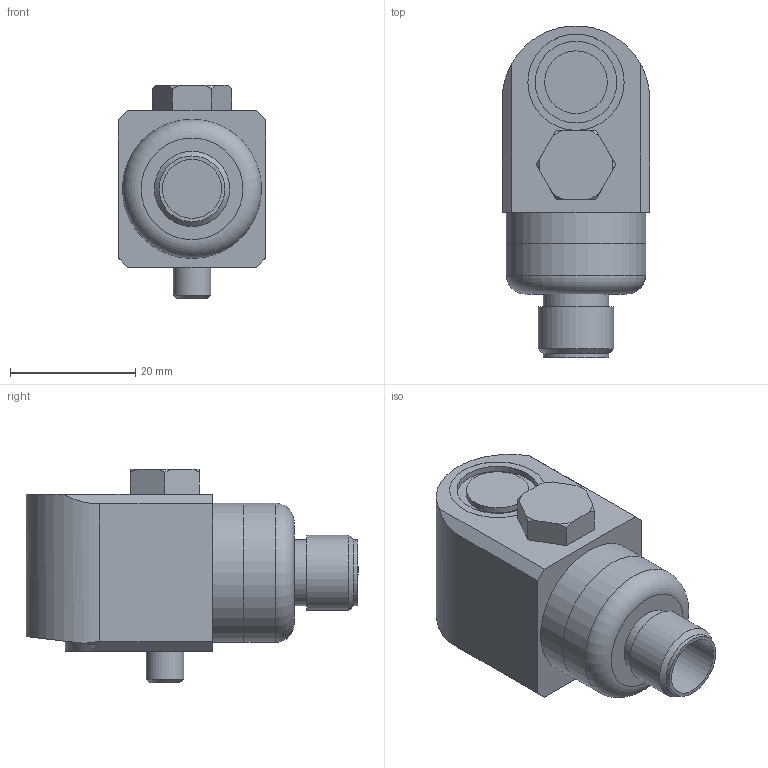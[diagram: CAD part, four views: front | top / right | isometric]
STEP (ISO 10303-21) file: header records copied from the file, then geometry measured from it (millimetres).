
FILE_DESCRIPTION(/* description */ (''),/* implementation_level */ '2;1');
FILE_NAME(/* name */ 'Z:\Engineering\Drawings\3D Library\Assemblies\Website\Premium Side\Compact\HS-170 Side M12\HS-170SXXX5402.stp',/* time_stamp */ '2023-03-20T15:07:47+00:00',/* author */ ('Ricardo.Peneda'),/* organization */ (''),/* preprocessor_version */ 'ST-DEVELOPER v18.1',/* originating_system */ 'Autodesk Inventor 2021',/* authorisation */ '');
FILE_SCHEMA (('AUTOMOTIVE_DESIGN { 1 0 10303 214 3 1 1 }'));
Length unit declared in the file: inch
Products named in the file (1): HS-170SXXX5402_Shrinkwrap_1
Bounding box: 23.5 x 52.94 x 34 mm (x, y, z)
Volume: 15034.7 mm3; surface area: 9562.3 mm2
Topology: 4 solids, 4 shells, 70 faces, 174 edges, 127 vertices
Faces by surface type: plane 38, cylinder 22, cone 9, torus 1
Full cylindrical faces by diameter (mm): 2.5 x1, 4.5 x1, 6 x2, 7 x1, 9.4 x2, 10 x1, 10.496 x1, 10.5 x1, 12 x1, 13 x1, 14.9 x1, 15.34 x1, 15.35 x1, 18 x1, 19.95 x1, 20 x1, 22.2 x2
Entity records: 2321 total; most frequent: CARTESIAN_POINT 425, DIRECTION 401, ORIENTED_EDGE 348, EDGE_CURVE 174, AXIS2_PLACEMENT_3D 170, VERTEX_POINT 127, EDGE_LOOP 89, CIRCLE 88
